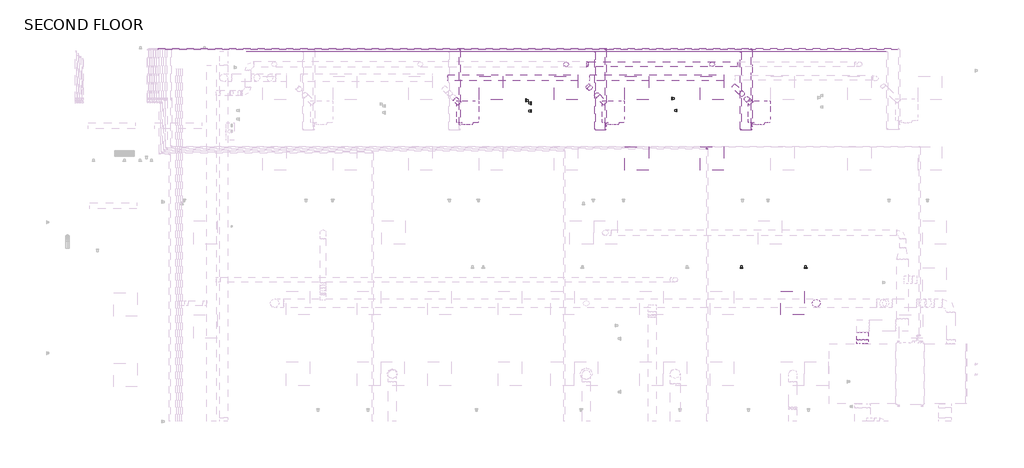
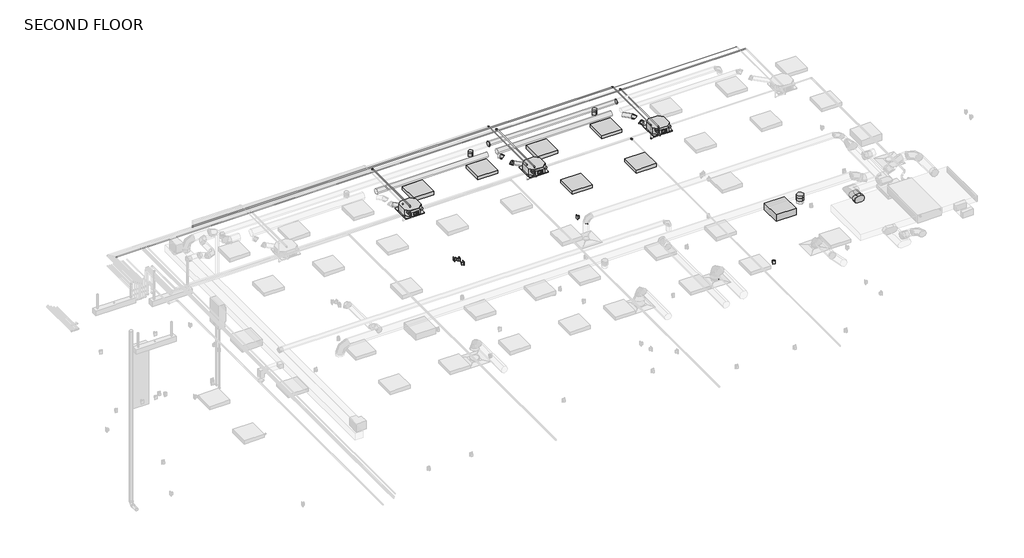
# One storey, part 11 of 12: 15 pipe segments, 13 pipe fittings, 12 duct segments, 10 duct fittings, 8 proxies, 7 light fixtures, 2 electric appliances.
"""IFC4 building model written with IfcOpenShell, lengths in millimetres."""

from ifc_helpers import new_model, si_unit, point, frame, frame_2d, origin, place, context, project, spatial, polyline, circle_curve, trimmed, segment, composite_curve, outline, extrude, transform, mapped, element, save
from components import mechanical_equipment_2d84379e, duplex_receptacle_countertop_10251bba, oval_tap_straight_standard_1d19fd39, round_elbow_1_d_b2a2d1fc, round_elbow_1_d_50e30291, round_elbow_1_d_d5890114, round_takeoff_standard_17dc06e3, round_takeoff_standard_a3e273fa, round_takeoff_standard_d07f2805, round_transition_angle_45_degree_f2e0231c, round_union_standard_bde99334, telephone_outlet_data_plain_18c24199, troffer_corner_insert_2x2_3_lamp_emergency_29e3a813, troffer_corner_insert_2x2_3lamp_e67c7f8f, elbow_generic_standard_c06ac706, elbow_generic_standard_a088f956

model = new_model("IFC4")

# Units and contexts
model_context = context("Model", 3, world=origin())
ifc_project = project(units=[si_unit("LENGTHUNIT", "METRE", prefix="MILLI")], contexts=[model_context])

# Site, building, storey
site = spatial("IfcSite", under=ifc_project)
building = spatial("IfcBuilding", under=site)
storey = spatial("IfcBuildingStorey", under=building, Name="SECOND FLOOR", Elevation=34544.0)

# Proxies
placement = place(None, origin())
mechanical_equipment_shape = mechanical_equipment_2d84379e(model_context)
element("IfcBuildingElementProxy", 1, Name="PLFY-P-NCMU-E_4-way_24x24 : PLFY-P12NCMU-E", ObjectType="PLFY-P-NCMU-E_4-way_24x24 : PLFY-P12NCMU-E", at=placement, inside=storey, context=model_context, shape_type="MappedRepresentation", body=[
    mapped(mechanical_equipment_shape, transform((289.0857893, 6112.4342918, 37287.2), x_axis=(-1.0, 0.0, 0.0), y_axis=(0.0, 1.0, 0.0), z_axis=(0.0, 0.0, -1.0))),
])
element("IfcBuildingElementProxy", 2, Name="PLFY-P-NCMU-E_4-way_24x24 : PLFY-P12NCMU-E", ObjectType="PLFY-P-NCMU-E_4-way_24x24 : PLFY-P12NCMU-E", at=placement, inside=storey, context=model_context, shape_type="MappedRepresentation", body=[
    mapped(mechanical_equipment_shape, transform((4070.5107893, 6112.4342918, 37287.2), x_axis=(-1.0, 0.0, 0.0), y_axis=(0.0, 1.0, 0.0), z_axis=(0.0, 0.0, -1.0))),
])
element("IfcBuildingElementProxy", 3, Name="PLFY-P-NCMU-E_4-way_24x24 : PLFY-P12NCMU-E", ObjectType="PLFY-P-NCMU-E_4-way_24x24 : PLFY-P12NCMU-E", at=placement, inside=storey, context=model_context, shape_type="MappedRepresentation", body=[
    mapped(mechanical_equipment_shape, transform((7851.9357893, 6112.4342918, 37287.2), x_axis=(-1.0, 0.0, 0.0), y_axis=(0.0, 1.0, 0.0), z_axis=(0.0, 0.0, -1.0))),
])
duplex_receptacle_countertop_shape = duplex_receptacle_countertop_10251bba(model_context)
element("IfcBuildingElementProxy", 4, Name="Duplex Receptacle : Standard", ObjectType="Duplex Receptacle : Standard", at=placement, inside=storey, context=model_context, shape_type="MappedRepresentation", body=[
    mapped(duplex_receptacle_countertop_shape, transform((1807.5295393, 6334.6426986, 35001.2), x_axis=(0.0, -1.0, 0.0), y_axis=(0.0, 0.0, 1.0), z_axis=(-1.0, 0.0, 0.0))),
])
element("IfcBuildingElementProxy", 5, Name="Duplex Receptacle : Standard", ObjectType="Duplex Receptacle : Standard", at=placement, inside=storey, context=model_context, shape_type="MappedRepresentation", body=[
    mapped(duplex_receptacle_countertop_shape, transform((1931.3545393, 6062.1200365, 35001.2), x_axis=(0.0, 1.0, 0.0), y_axis=(0.0, 0.0, 1.0), z_axis=(1.0, 0.0, 0.0))),
])
element("IfcBuildingElementProxy", 6, Name="Duplex Receptacle : Standard", ObjectType="Duplex Receptacle : Standard", at=placement, inside=storey, context=model_context, shape_type="MappedRepresentation", body=[
    mapped(duplex_receptacle_countertop_shape, transform((5588.9545393, 6381.6293645, 35001.2), x_axis=(0.0, -1.0, 0.0), y_axis=(0.0, 0.0, 1.0), z_axis=(-1.0, 0.0, 0.0))),
])
element("IfcBuildingElementProxy", 7, Name="Duplex Receptacle : Standard", ObjectType="Duplex Receptacle : Standard", at=placement, inside=storey, context=model_context, shape_type="MappedRepresentation", body=[
    mapped(duplex_receptacle_countertop_shape, transform((5712.7795393, 6074.7500523, 35001.2), x_axis=(0.0, 1.0, 0.0), y_axis=(0.0, 0.0, 1.0), z_axis=(1.0, 0.0, 0.0))),
])
element("IfcBuildingElementProxy", 8, Name="Duplex Receptacle : Standard", ObjectType="Duplex Receptacle : Standard", at=placement, inside=storey, context=model_context, shape_type="MappedRepresentation", body=[
    mapped(duplex_receptacle_countertop_shape, transform((9052.3402445, 1991.7195005, 35001.2), x_axis=(1.0, 0.0, 0.0), y_axis=(0.0, 0.0, 1.0), z_axis=(0.0, -1.0, 0.0))),
])

# Duct fittings
oval_tap_straight_standard_shape = oval_tap_straight_standard_1d19fd39(model_context)
element("IfcDuctFitting", 9, ObjectType="Oval Tap - Straight : Standard", at=placement, inside=storey, context=model_context, shape_type="MappedRepresentation", body=[
    mapped(oval_tap_straight_standard_shape, transform((10522.5076643, 26.3945005, 37712.65), x_axis=(0.0, 1.0, 0.0), y_axis=(1.0, 0.0, 0.0), z_axis=(0.0, 0.0, -1.0))),
])
round_elbow_1_d_shape = round_elbow_1_d_b2a2d1fc(model_context)
element("IfcDuctFitting", 10, ObjectType="Round Elbow : 1 D", at=placement, inside=storey, context=model_context, shape_type="MappedRepresentation", body=[
    mapped(round_elbow_1_d_shape, transform((3454.0374117, 6660.2866281, 37541.2), x_axis=(0.7071067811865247, -0.7071067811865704, 0.0), y_axis=(0.0, 0.0, -1.0000000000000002), z_axis=(0.7071067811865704, 0.7071067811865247, 0.0))),
])
element("IfcDuctFitting", 11, ObjectType="Round Elbow : 1 D", at=placement, inside=storey, context=model_context, shape_type="MappedRepresentation", body=[
    mapped(round_elbow_1_d_shape, transform((3648.0880488, 6466.235991, 37381.2593852), x_axis=(0.6109224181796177, -0.610922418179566, -0.5035351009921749), y_axis=(0.3560530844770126, -0.3560530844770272, 0.8639747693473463), z_axis=(-0.7071067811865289, -0.7071067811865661, 0.0))),
])
round_elbow_1_d_2_shape = round_elbow_1_d_50e30291(model_context)
element("IfcDuctFitting", 12, ObjectType="Round Elbow : 1 D", at=placement, inside=storey, context=model_context, shape_type="MappedRepresentation", body=[
    mapped(round_elbow_1_d_2_shape, transform((7536.6080109, 6359.1410289, 37381.2593742), x_axis=(-0.7071067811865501, 0.7071067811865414, -7.194429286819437e-08), y_axis=(-5.087228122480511e-08, 5.087231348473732e-08, 0.9999999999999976), z_axis=(0.7071067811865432, 0.707106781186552, 0.0))),
])
round_elbow_1_d_3_shape = round_elbow_1_d_d5890114(model_context)
element("IfcDuctFitting", 13, ObjectType="Round Elbow : 1 D", at=placement, inside=storey, context=model_context, shape_type="MappedRepresentation", body=[
    mapped(round_elbow_1_d_3_shape, transform((7390.9344617, 6504.8145781, 37541.2), x_axis=(-0.5585398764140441, 0.5585398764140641, 0.6132425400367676), y_axis=(-0.43362795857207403, 0.43362795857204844, -0.7898946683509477), z_axis=(-0.7071067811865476, -0.7071067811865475, 0.0))),
])
round_takeoff_standard_shape = round_takeoff_standard_17dc06e3(model_context)
element("IfcDuctFitting", 14, ObjectType="Round Takeoff : Standard", at=placement, inside=storey, context=model_context, shape_type="MappedRepresentation", body=[
    mapped(round_takeoff_standard_shape, transform((6627.1795393, 7268.5695005, 37528.5), x_axis=(0.0, 0.0, -1.0), y_axis=(-1.0, 0.0, 0.0), z_axis=(0.0, 1.0, 0.0))),
])
round_takeoff_standard_2_shape = round_takeoff_standard_a3e273fa(model_context)
element("IfcDuctFitting", 15, ObjectType="Round Takeoff : Standard", at=placement, inside=storey, context=model_context, shape_type="MappedRepresentation", body=[
    mapped(round_takeoff_standard_2_shape, transform((2845.7545393, 7268.5695005, 37515.8), x_axis=(0.0, 0.0, -1.0), y_axis=(1.0, 0.0, 0.0), z_axis=(0.0, -1.0, 0.0))),
])
round_takeoff_standard_3_shape = round_takeoff_standard_d07f2805(model_context)
element("IfcDuctFitting", 16, ObjectType="Round Takeoff : Standard", at=placement, inside=storey, context=model_context, shape_type="MappedRepresentation", body=[
    mapped(round_takeoff_standard_3_shape, transform((9326.7232893, 1077.3195005, 37579.3), x_axis=(0.0, 0.0, -1.0), y_axis=(-1.0, 0.0, 0.0), z_axis=(0.0, 1.0, 0.0))),
])
round_transition_angle_45_degree_shape = round_transition_angle_45_degree_f2e0231c(model_context)
element("IfcDuctFitting", 17, ObjectType="Round Transition - Angle : 45 Degree", at=placement, inside=storey, context=model_context, shape_type="MappedRepresentation", body=[
    mapped(round_transition_angle_45_degree_shape, transform((3412.4920393, 7268.5695005, 37592.0), x_axis=(-1.0, 0.0, 0.0), y_axis=(0.0, -1.0, 0.0), z_axis=(0.0, 0.0, 1.0))),
])
round_union_standard_shape = round_union_standard_bde99334(model_context)
element("IfcDuctFitting", 18, ObjectType="Round Union : Standard", at=placement, inside=storey, context=model_context, shape_type="MappedRepresentation", body=[
    mapped(round_union_standard_shape, transform((7298.6920393, 7268.5695005, 37592.0), x_axis=(-1.0, 0.0, 0.0), y_axis=(0.0, -1.0, 0.0), z_axis=(0.0, 0.0, 1.0))),
])

# Duct segments
element("IfcDuctSegment", 19, ObjectType="Mitered Elbows / Taps", at=placement, inside=storey, context=model_context, shape_type="SweptSolid", body=[
    extrude(outline(composite_curve([segment(polyline([(37814.25, 10573.3076643), (37814.25, 10471.7076643)]), True, "CONTINUOUS"), segment(trimmed(circle_curve(frame_2d((37712.65, 10471.7076643)), 101.6), [point((37814.25, 10471.7076643))], [point((37712.65, 10370.1076643))], False, "CARTESIAN"), True, "CONTINUOUS"), segment(trimmed(circle_curve(frame_2d((37712.65, 10471.7076643)), 101.6), [point((37712.65, 10370.1076643))], [point((37611.05, 10471.7076643))], False, "CARTESIAN"), True, "CONTINUOUS"), segment(polyline([(37611.05, 10471.7076643), (37611.05, 10573.3076643)]), True, "CONTINUOUS"), segment(trimmed(circle_curve(frame_2d((37712.65, 10573.3076643)), 101.6), [point((37611.05, 10573.3076643))], [point((37712.65, 10674.9076643))], False, "CARTESIAN"), True, "CONTINUOUS"), segment(trimmed(circle_curve(frame_2d((37712.65, 10573.3076643)), 101.6), [point((37712.65, 10674.9076643))], [point((37814.25, 10573.3076643))], False, "CARTESIAN"), True, "CONTINUOUS")], self_intersect=False)), frame((0.0, 127.9945005, 0.0), z_axis=(0.0, 1.0, 0.0), x_axis=(0.0, 0.0, 1.0)), (0.0, 0.0, 1.0), 190.7662036),
])
element("IfcDuctSegment", 20, ObjectType="Taps / Short Radius", at=placement, inside=storey, context=model_context, shape_type="SweptSolid", body=[
    extrude(outline(composite_curve([segment(trimmed(circle_curve(frame_2d((0.0, 63.5)), 63.5), [point((-63.5, 63.5))], [point((0.0, 127.0))], False, "CARTESIAN"), True, "CONTINUOUS"), segment(trimmed(circle_curve(frame_2d((0.0, 63.5)), 63.5), [point((0.0, 127.0))], [point((63.5, 63.5))], False, "CARTESIAN"), True, "CONTINUOUS"), segment(trimmed(circle_curve(frame_2d((0.0, 63.5)), 63.5), [point((63.5, 63.5))], [point((0.0, 0.0))], False, "CARTESIAN"), True, "CONTINUOUS"), segment(trimmed(circle_curve(frame_2d((0.0, 63.5)), 63.5), [point((0.0, 0.0))], [point((-63.5, 63.5))], False, "CARTESIAN"), True, "CONTINUOUS")], self_intersect=False)), frame((6627.1795393, 7205.0695005, 37388.8), z_axis=(0.0, -1.1937117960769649e-12, 1.0), x_axis=(1.0, 0.0, 0.0)), (0.0, 0.0, 1.0), 38.1),
])
element("IfcDuctSegment", 21, ObjectType="Taps / Short Radius", at=placement, inside=storey, context=model_context, shape_type="SweptSolid", body=[
    extrude(outline(composite_curve([segment(trimmed(circle_curve(frame_2d((0.0, 63.5)), 63.5), [point((-63.5, 63.5))], [point((0.0, 127.0))], False, "CARTESIAN"), True, "CONTINUOUS"), segment(trimmed(circle_curve(frame_2d((0.0, 63.5)), 63.5), [point((0.0, 127.0))], [point((63.5, 63.5))], False, "CARTESIAN"), True, "CONTINUOUS"), segment(trimmed(circle_curve(frame_2d((0.0, 63.5)), 63.5), [point((63.5, 63.5))], [point((0.0, 0.0))], False, "CARTESIAN"), True, "CONTINUOUS"), segment(trimmed(circle_curve(frame_2d((0.0, 63.5)), 63.5), [point((0.0, 0.0))], [point((-63.5, 63.5))], False, "CARTESIAN"), True, "CONTINUOUS")], self_intersect=False)), frame((2845.7545393, 7205.0695005, 37388.8), z_axis=(0.0, -5.900346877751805e-12, 1.0), x_axis=(1.0, 0.0, 0.0)), (0.0, 0.0, 1.0), 25.4),
])
element("IfcDuctSegment", 22, ObjectType="Taps / Short Radius", at=placement, inside=storey, context=model_context, shape_type="SweptSolid", body=[
    extrude(outline(composite_curve([segment(trimmed(circle_curve(frame_2d((7268.5695005, 37592.0)), 63.5), [point((7332.0695005, 37592.0))], [point((7268.5695005, 37528.5))], False, "CARTESIAN"), True, "CONTINUOUS"), segment(trimmed(circle_curve(frame_2d((7268.5695005, 37592.0)), 63.5), [point((7268.5695005, 37528.5))], [point((7205.0695005, 37592.0))], False, "CARTESIAN"), True, "CONTINUOUS"), segment(trimmed(circle_curve(frame_2d((7268.5695005, 37592.0)), 63.5), [point((7205.0695005, 37592.0))], [point((7268.5695005, 37655.5))], False, "CARTESIAN"), True, "CONTINUOUS"), segment(trimmed(circle_curve(frame_2d((7268.5695005, 37592.0)), 63.5), [point((7268.5695005, 37655.5))], [point((7332.0695005, 37592.0))], False, "CARTESIAN"), True, "CONTINUOUS")], self_intersect=False)), frame((3412.4920393, 0.0, 0.0), z_axis=(1.0, 0.0, 0.0), x_axis=(0.0, 1.0, 0.0)), (0.0, 0.0, 1.0), 3879.85),
])
element("IfcDuctSegment", 23, ObjectType="Taps / Short Radius", at=placement, inside=storey, context=model_context, shape_type="SweptSolid", body=[
    extrude(outline(composite_curve([segment(trimmed(circle_curve(frame_2d((9326.7232893, 1077.3195005)), 101.6), [point((9225.1232893, 1077.3195005))], [point((9326.7232893, 1178.9195005))], False, "CARTESIAN"), True, "CONTINUOUS"), segment(trimmed(circle_curve(frame_2d((9326.7232893, 1077.3195005)), 101.6), [point((9326.7232893, 1178.9195005))], [point((9428.3232893, 1077.3195005))], False, "CARTESIAN"), True, "CONTINUOUS"), segment(trimmed(circle_curve(frame_2d((9326.7232893, 1077.3195005)), 101.6), [point((9428.3232893, 1077.3195005))], [point((9326.7232893, 975.7195005))], False, "CARTESIAN"), True, "CONTINUOUS"), segment(trimmed(circle_curve(frame_2d((9326.7232893, 1077.3195005)), 101.6), [point((9326.7232893, 975.7195005))], [point((9225.1232893, 1077.3195005))], False, "CARTESIAN"), True, "CONTINUOUS")], self_intersect=False)), frame((0.0, 0.0, 37388.8), z_axis=(0.0, 0.0, 1.0), x_axis=(1.0, 0.0, 0.0)), (0.0, 0.0, 1.0), 88.9),
])
element("IfcDuctSegment", 24, ObjectType="Taps / Short Radius", at=placement, inside=storey, context=model_context, shape_type="SweptSolid", body=[
    extrude(outline(composite_curve([segment(trimmed(circle_curve(frame_2d((6917.6422212, 37541.2)), 76.2), [point((6993.8422212, 37541.2))], [point((6917.6422212, 37465.0))], False, "CARTESIAN"), True, "CONTINUOUS"), segment(trimmed(circle_curve(frame_2d((6917.6422212, 37541.2)), 76.2), [point((6917.6422212, 37465.0))], [point((6841.4422212, 37541.2))], False, "CARTESIAN"), True, "CONTINUOUS"), segment(trimmed(circle_curve(frame_2d((6917.6422212, 37541.2)), 76.2), [point((6841.4422212, 37541.2))], [point((6917.6422212, 37617.4))], False, "CARTESIAN"), True, "CONTINUOUS"), segment(trimmed(circle_curve(frame_2d((6917.6422212, 37541.2)), 76.2), [point((6917.6422212, 37617.4))], [point((6993.8422212, 37541.2))], False, "CARTESIAN"), True, "CONTINUOUS")], self_intersect=False)), frame((-229.1431814, 0.0, 0.0), z_axis=(1.0, 0.0, 0.0), x_axis=(0.0, 1.0, 0.0)), (0.0, 0.0, 1.0), 3380.9237194),
])
element("IfcDuctSegment", 25, ObjectType="Taps / Short Radius", at=placement, inside=storey, context=model_context, shape_type="SweptSolid", body=[
    extrude(outline(composite_curve([segment(trimmed(circle_curve(frame_2d((6917.6422212, 37541.2)), 76.2), [point((6841.4422212, 37541.2))], [point((6917.6422212, 37617.4))], False, "CARTESIAN"), True, "CONTINUOUS"), segment(trimmed(circle_curve(frame_2d((6917.6422212, 37541.2)), 76.2), [point((6917.6422212, 37617.4))], [point((6993.8422212, 37541.2))], False, "CARTESIAN"), True, "CONTINUOUS"), segment(trimmed(circle_curve(frame_2d((6917.6422212, 37541.2)), 76.2), [point((6993.8422212, 37541.2))], [point((6917.6422212, 37465.0))], False, "CARTESIAN"), True, "CONTINUOUS"), segment(trimmed(circle_curve(frame_2d((6917.6422212, 37541.2)), 76.2), [point((6917.6422212, 37465.0))], [point((6841.4422212, 37541.2))], False, "CARTESIAN"), True, "CONTINUOUS")], self_intersect=False)), frame((3450.6818186, 0.0, 0.0), z_axis=(1.0, 0.0, 0.0), x_axis=(0.0, 1.0, 0.0)), (0.0, 0.0, 1.0), 3482.5237194),
])
element("IfcDuctSegment", 26, ObjectType="Taps / Short Radius", at=placement, inside=storey, context=model_context, shape_type="SweptSolid", body=[
    extrude(outline(composite_curve([segment(trimmed(circle_curve(frame_2d((0.0, 63.5)), 63.5), [point((63.5, 63.5))], [point((0.0, 0.0))], False, "CARTESIAN"), True, "CONTINUOUS"), segment(trimmed(circle_curve(frame_2d((0.0, 63.5)), 63.5), [point((0.0, 0.0))], [point((-63.5, 63.5))], False, "CARTESIAN"), True, "CONTINUOUS"), segment(trimmed(circle_curve(frame_2d((0.0, 63.5)), 63.5), [point((-63.5, 63.5))], [point((0.0, 127.0))], False, "CARTESIAN"), True, "CONTINUOUS"), segment(trimmed(circle_curve(frame_2d((0.0, 63.5)), 63.5), [point((0.0, 127.0))], [point((63.5, 63.5))], False, "CARTESIAN"), True, "CONTINUOUS")], self_intersect=False)), frame((82.1894112, 6250.7096286, 37444.7593852), z_axis=(-0.7071067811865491, 0.707106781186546, 0.0), x_axis=(0.707106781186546, 0.7071067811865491, 0.0)), (0.0, 0.0, 1.0), 172.72),
])
element("IfcDuctSegment", 27, ObjectType="Taps / Short Radius", at=placement, inside=storey, context=model_context, shape_type="SweptSolid", body=[
    extrude(outline(composite_curve([segment(trimmed(circle_curve(frame_2d((0.0, -63.5)), 63.5), [point((-63.5000001, -63.5))], [point((0.0, 0.0))], False, "CARTESIAN"), True, "CONTINUOUS"), segment(trimmed(circle_curve(frame_2d((0.0, -63.5)), 63.5), [point((0.0, 0.0))], [point((63.5, -63.5))], False, "CARTESIAN"), True, "CONTINUOUS"), segment(trimmed(circle_curve(frame_2d((0.0, -63.5)), 63.5), [point((63.5, -63.5))], [point((0.0, -127.0))], False, "CARTESIAN"), True, "CONTINUOUS"), segment(trimmed(circle_curve(frame_2d((0.0, -63.5)), 63.5), [point((0.0, -127.0))], [point((-63.5000001, -63.5))], False, "CARTESIAN"), True, "CONTINUOUS")], self_intersect=False)), frame((3429.7781018, 6684.5459381, 37477.7), z_axis=(-0.7071067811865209, 0.7071067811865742, 0.0), x_axis=(0.7071067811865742, 0.7071067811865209, 0.0)), (0.0, 0.0, 1.0), 50.621778),
])
element("IfcDuctSegment", 28, ObjectType="Taps / Short Radius", at=placement, inside=storey, context=model_context, shape_type="SweptSolid", body=[
    extrude(outline(composite_curve([segment(trimmed(circle_curve(frame_2d((0.0, -63.5)), 63.5), [point((-63.5, -63.5))], [point((0.0, 0.0))], False, "CARTESIAN"), True, "CONTINUOUS"), segment(trimmed(circle_curve(frame_2d((0.0, -63.5)), 63.5), [point((0.0, 0.0))], [point((63.5, -63.5))], False, "CARTESIAN"), True, "CONTINUOUS"), segment(trimmed(circle_curve(frame_2d((0.0, -63.5)), 63.5), [point((63.5, -63.5))], [point((0.0, -127.0))], False, "CARTESIAN"), True, "CONTINUOUS"), segment(trimmed(circle_curve(frame_2d((0.0, -63.5)), 63.5), [point((0.0, -127.0))], [point((-63.5, -63.5))], False, "CARTESIAN"), True, "CONTINUOUS")], self_intersect=False)), frame((3863.6144112, 6250.7096286, 37317.7593852), z_axis=(-0.707106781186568, 0.7071067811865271, 0.0), x_axis=(0.7071067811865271, 0.707106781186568, 0.0)), (0.0, 0.0, 1.0), 270.4924596),
])
element("IfcDuctSegment", 29, ObjectType="Taps / Short Radius", at=placement, inside=storey, context=model_context, shape_type="SweptSolid", body=[
    extrude(outline(composite_curve([segment(trimmed(circle_curve(frame_2d((0.0, 63.5)), 63.5), [point((63.5, 63.5))], [point((0.0, 0.0))], False, "CARTESIAN"), True, "CONTINUOUS"), segment(trimmed(circle_curve(frame_2d((0.0, 63.5)), 63.5), [point((0.0, 0.0))], [point((-63.5, 63.5))], False, "CARTESIAN"), True, "CONTINUOUS"), segment(trimmed(circle_curve(frame_2d((0.0, 63.5)), 63.5), [point((-63.5, 63.5))], [point((0.0, 127.0))], False, "CARTESIAN"), True, "CONTINUOUS"), segment(trimmed(circle_curve(frame_2d((0.0, 63.5)), 63.5), [point((0.0, 127.0))], [point((63.5, 63.5))], False, "CARTESIAN"), True, "CONTINUOUS")], self_intersect=False)), frame((7645.0394112, 6250.7096286, 37444.7593852), z_axis=(-0.7071067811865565, 0.7071067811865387, 0.0), x_axis=(0.7071067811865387, 0.7071067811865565, 0.0)), (0.0, 0.0, 1.0), 109.8332044),
])
element("IfcDuctSegment", 30, ObjectType="Taps / Short Radius", at=placement, inside=storey, context=model_context, shape_type="SweptSolid", body=[
    extrude(outline(composite_curve([segment(trimmed(circle_curve(frame_2d((0.0, 63.5)), 63.5), [point((63.5, 63.5))], [point((0.0, 0.0))], False, "CARTESIAN"), True, "CONTINUOUS"), segment(trimmed(circle_curve(frame_2d((0.0, 63.5)), 63.5), [point((0.0, 0.0))], [point((-63.5, 63.5))], False, "CARTESIAN"), True, "CONTINUOUS"), segment(trimmed(circle_curve(frame_2d((0.0, 63.5)), 63.5), [point((-63.5, 63.5))], [point((0.0, 127.0))], False, "CARTESIAN"), True, "CONTINUOUS"), segment(trimmed(circle_curve(frame_2d((0.0, 63.5)), 63.5), [point((0.0, 127.0))], [point((63.5, 63.5))], False, "CARTESIAN"), True, "CONTINUOUS")], self_intersect=False)), frame((7360.1668686, 6535.5821712, 37604.7), z_axis=(-0.7071067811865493, 0.7071067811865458, 0.0), x_axis=(0.7071067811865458, 0.7071067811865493, 0.0)), (0.0, 0.0, 1.0), 261.2883574),
])

# Electric appliances
telephone_outlet_data_plain_shape = telephone_outlet_data_plain_18c24199(model_context)
element("IfcElectricAppliance", 31, ObjectType="Telephone Outlet - Data : Plain", at=placement, inside=storey, context=model_context, shape_type="MappedRepresentation", body=[
    mapped(telephone_outlet_data_plain_shape, transform((1931.3545393, 7140.4549932, 34143.95), x_axis=(0.0, 1.0, 0.0), y_axis=(0.0, 0.0, 1.0), z_axis=(1.0, 0.0, 0.0))),
])
element("IfcElectricAppliance", 32, ObjectType="Telephone Outlet - Data : Plain", at=placement, inside=storey, context=model_context, shape_type="MappedRepresentation", body=[
    mapped(telephone_outlet_data_plain_shape, transform((8272.2966001, 1991.7195005, 34143.95), x_axis=(1.0, 0.0, 0.0), y_axis=(0.0, 0.0, 1.0), z_axis=(0.0, -1.0, 0.0))),
])

# Light fixtures
troffer_corner_insert_2x2_3_lamp_emergency_shape = troffer_corner_insert_2x2_3_lamp_emergency_29e3a813(model_context)
element("IfcLightFixture", 33, ObjectType="Troffer Corner Insert : 2x2 3 Lamp Emergency", at=placement, inside=storey, context=model_context, shape_type="MappedRepresentation", body=[
    mapped(troffer_corner_insert_2x2_3_lamp_emergency_shape, transform((8717.1232893, 1077.3195005, 34848.8), x_axis=(1.0, 0.0, 0.0), y_axis=(0.0, 1.0, 0.0), z_axis=(0.0, 0.0, 1.0))),
])
troffer_corner_insert_2x2_3lamp_shape = troffer_corner_insert_2x2_3lamp_e67c7f8f(model_context)
element("IfcLightFixture", 34, ObjectType="Troffer Corner Insert : 2x2 3Lamp", at=placement, inside=storey, context=model_context, shape_type="MappedRepresentation", body=[
    mapped(troffer_corner_insert_2x2_3lamp_shape, transform((2845.7545393, 6658.9695005, 34848.8), x_axis=(1.0, 0.0, 0.0), y_axis=(0.0, 1.0, 0.0), z_axis=(0.0, 0.0, 1.0))),
])
element("IfcLightFixture", 35, ObjectType="Troffer Corner Insert : 2x2 3Lamp", at=placement, inside=storey, context=model_context, shape_type="MappedRepresentation", body=[
    mapped(troffer_corner_insert_2x2_3lamp_shape, transform((4674.5545393, 4830.1695005, 34848.8), x_axis=(1.0, 0.0, 0.0), y_axis=(0.0, 1.0, 0.0), z_axis=(0.0, 0.0, 1.0))),
])
element("IfcLightFixture", 36, ObjectType="Troffer Corner Insert : 2x2 3Lamp", at=placement, inside=storey, context=model_context, shape_type="MappedRepresentation", body=[
    mapped(troffer_corner_insert_2x2_3lamp_shape, transform((6627.1795393, 6658.9695005, 34848.8), x_axis=(1.0, 0.0, 0.0), y_axis=(0.0, 1.0, 0.0), z_axis=(0.0, 0.0, 1.0))),
])
element("IfcLightFixture", 37, ObjectType="Troffer Corner Insert : 2x2 3Lamp", at=placement, inside=storey, context=model_context, shape_type="MappedRepresentation", body=[
    mapped(troffer_corner_insert_2x2_3lamp_shape, transform((6627.1795393, 4830.1695005, 34848.8), x_axis=(1.0, 0.0, 0.0), y_axis=(0.0, 1.0, 0.0), z_axis=(0.0, 0.0, 1.0))),
])
element("IfcLightFixture", 38, ObjectType="Troffer Corner Insert : 2x2 3Lamp", at=placement, inside=storey, context=model_context, shape_type="MappedRepresentation", body=[
    mapped(troffer_corner_insert_2x2_3lamp_shape, transform((893.1295393, 6658.9695005, 34848.8), x_axis=(1.0, 0.0, 0.0), y_axis=(0.0, 1.0, 0.0), z_axis=(0.0, 0.0, 1.0))),
])
element("IfcLightFixture", 39, ObjectType="Troffer Corner Insert : 2x2 3Lamp", at=placement, inside=storey, context=model_context, shape_type="MappedRepresentation", body=[
    mapped(troffer_corner_insert_2x2_3lamp_shape, transform((4674.5545393, 6658.9695005, 34848.8), x_axis=(1.0, 0.0, 0.0), y_axis=(0.0, 1.0, 0.0), z_axis=(0.0, 0.0, 1.0))),
])

# Pipe fittings
elbow_generic_standard_shape = elbow_generic_standard_c06ac706(model_context)
element("IfcPipeFitting", 40, ObjectType="Elbow - Generic : Standard", at=placement, inside=storey, context=model_context, shape_type="MappedRepresentation", body=[
    mapped(elbow_generic_standard_shape, transform((90.6482893, 7663.8570005, 37706.3), x_axis=(0.0, 1.0, 0.0), y_axis=(-1.0, 0.0, 0.0), z_axis=(0.0, 0.0, 1.0))),
])
element("IfcPipeFitting", 41, ObjectType="Elbow - Generic : Standard", at=placement, inside=storey, context=model_context, shape_type="MappedRepresentation", body=[
    mapped(elbow_generic_standard_shape, transform((3872.0732893, 7663.8570005, 37668.2), x_axis=(0.0, 1.0, 0.0), y_axis=(-1.0, 0.0, 0.0), z_axis=(0.0, 0.0, 1.0))),
])
element("IfcPipeFitting", 42, ObjectType="Elbow - Generic : Standard", at=placement, inside=storey, context=model_context, shape_type="MappedRepresentation", body=[
    mapped(elbow_generic_standard_shape, transform((7653.4982893, 7663.8570005, 37630.1), x_axis=(0.0, 1.0, 0.0), y_axis=(-1.0, 0.0, 0.0), z_axis=(0.0, 0.0, 1.0))),
])
element("IfcPipeFitting", 43, ObjectType="Elbow - Generic : Standard", at=placement, inside=storey, context=model_context, shape_type="MappedRepresentation", body=[
    mapped(elbow_generic_standard_shape, transform((7653.4982893, 5659.1525126, 37630.1), x_axis=(0.0, 0.0, 1.0), y_axis=(0.0, 1.0, 0.0), z_axis=(-1.0, 0.0, 0.0))),
])
element("IfcPipeFitting", 44, ObjectType="Elbow - Generic : Standard", at=placement, inside=storey, context=model_context, shape_type="MappedRepresentation", body=[
    mapped(elbow_generic_standard_shape, transform((6500.4970393, 5084.8701311, 37998.4), x_axis=(0.0, 1.0, 0.0), y_axis=(-1.0, 0.0, 0.0), z_axis=(0.0, 0.0, 1.0))),
])
element("IfcPipeFitting", 45, ObjectType="Elbow - Generic : Standard", at=placement, inside=storey, context=model_context, shape_type="MappedRepresentation", body=[
    mapped(elbow_generic_standard_shape, transform((3872.0732893, 5665.0498496, 37437.2187602), x_axis=(0.0, 0.0, -1.0), y_axis=(0.0, 1.0, 0.0), z_axis=(1.0, 0.0, 0.0))),
])
element("IfcPipeFitting", 46, ObjectType="Elbow - Generic : Standard", at=placement, inside=storey, context=model_context, shape_type="MappedRepresentation", body=[
    mapped(elbow_generic_standard_shape, transform((7653.4982893, 5659.1525126, 37437.2187602), x_axis=(0.0, 0.0, -1.0), y_axis=(0.0, 1.0, 0.0), z_axis=(1.0, 0.0, 0.0))),
])
elbow_generic_standard_2_shape = elbow_generic_standard_a088f956(model_context)
element("IfcPipeFitting", 47, ObjectType="Elbow - Generic : Standard", at=placement, inside=storey, context=model_context, shape_type="MappedRepresentation", body=[
    mapped(elbow_generic_standard_2_shape, transform((3588.7045393, 7600.3570005, 37896.8), x_axis=(0.0, 1.0, 0.0), y_axis=(-1.0, 0.0, 0.0), z_axis=(0.0, 0.0, 1.0))),
])
element("IfcPipeFitting", 48, ObjectType="Elbow - Generic : Standard", at=placement, inside=storey, context=model_context, shape_type="MappedRepresentation", body=[
    mapped(elbow_generic_standard_2_shape, transform((7370.1295393, 5568.3570005, 37407.85), x_axis=(-1.0, 0.0, 0.0), y_axis=(0.0, 0.0, 1.0), z_axis=(0.0, 1.0, 0.0))),
])
element("IfcPipeFitting", 49, ObjectType="Elbow - Generic : Standard", at=placement, inside=storey, context=model_context, shape_type="MappedRepresentation", body=[
    mapped(elbow_generic_standard_2_shape, transform((7370.1295393, 5568.3570005, 37846.0), x_axis=(0.0, 0.0, 1.0), y_axis=(0.0, 1.0, 0.0), z_axis=(-1.0, 0.0, 0.0))),
])
element("IfcPipeFitting", 50, ObjectType="Elbow - Generic : Standard", at=placement, inside=storey, context=model_context, shape_type="MappedRepresentation", body=[
    mapped(elbow_generic_standard_2_shape, transform((7370.1295393, 7600.3570005, 37846.0), x_axis=(0.0, 1.0, 0.0), y_axis=(-1.0, 0.0, 0.0), z_axis=(0.0, 0.0, 1.0))),
])
element("IfcPipeFitting", 51, ObjectType="Elbow - Generic : Standard", at=placement, inside=storey, context=model_context, shape_type="MappedRepresentation", body=[
    mapped(elbow_generic_standard_2_shape, transform((3868.8982893, 5568.3570005, 37407.8499993), x_axis=(1.0, 0.0, 0.0), y_axis=(0.0, 0.9999999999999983, 5.7594219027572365e-08), z_axis=(0.0, -5.7594219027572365e-08, 0.9999999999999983))),
])
element("IfcPipeFitting", 52, ObjectType="Elbow - Generic : Standard", at=placement, inside=storey, context=model_context, shape_type="MappedRepresentation", body=[
    mapped(elbow_generic_standard_2_shape, transform((7650.3232893, 5568.3570005, 37407.85), x_axis=(1.0, 0.0, 0.0), y_axis=(0.0, 0.9999999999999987, 5.3754602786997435e-08), z_axis=(0.0, -5.3754602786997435e-08, 0.9999999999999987))),
])

# Pipe segments
element("IfcPipeSegment", 53, ObjectType="Copper Tubing", at=placement, inside=storey, context=model_context, shape_type="SweptSolid", body=[
    extrude(outline(composite_curve([segment(trimmed(circle_curve(frame_2d((37706.3, 90.6482893)), 14.2875), [point((37706.3, 104.9357893))], [point((37720.5875, 90.6482893))], False, "CARTESIAN"), True, "CONTINUOUS"), segment(trimmed(circle_curve(frame_2d((37706.3, 90.6482893)), 14.2875), [point((37720.5875, 90.6482893))], [point((37706.3, 76.3607893))], False, "CARTESIAN"), True, "CONTINUOUS"), segment(trimmed(circle_curve(frame_2d((37706.3, 90.6482893)), 14.2875), [point((37706.3, 76.3607893))], [point((37692.0125, 90.6482893))], False, "CARTESIAN"), True, "CONTINUOUS"), segment(trimmed(circle_curve(frame_2d((37706.3, 90.6482893)), 14.2875), [point((37692.0125, 90.6482893))], [point((37706.3, 104.9357893))], False, "CARTESIAN"), True, "CONTINUOUS")], self_intersect=False)), frame((0.0, 5704.9751647, 0.0), z_axis=(0.0, 1.0, 0.0), x_axis=(0.0, 0.0, 1.0)), (0.0, 0.0, 1.0), 1938.2443359),
])
element("IfcPipeSegment", 54, ObjectType="Copper Tubing", at=placement, inside=storey, context=model_context, shape_type="SweptSolid", body=[
    extrude(outline(composite_curve([segment(trimmed(circle_curve(frame_2d((37668.2, 3872.0732893)), 14.2875), [point((37668.2, 3886.3607893))], [point((37682.4875, 3872.0732893))], False, "CARTESIAN"), True, "CONTINUOUS"), segment(trimmed(circle_curve(frame_2d((37668.2, 3872.0732893)), 14.2875), [point((37682.4875, 3872.0732893))], [point((37668.2, 3857.7857893))], False, "CARTESIAN"), True, "CONTINUOUS"), segment(trimmed(circle_curve(frame_2d((37668.2, 3872.0732893)), 14.2875), [point((37668.2, 3857.7857893))], [point((37653.9125, 3872.0732893))], False, "CARTESIAN"), True, "CONTINUOUS"), segment(trimmed(circle_curve(frame_2d((37668.2, 3872.0732893)), 14.2875), [point((37653.9125, 3872.0732893))], [point((37668.2, 3886.3607893))], False, "CARTESIAN"), True, "CONTINUOUS")], self_intersect=False)), frame((0.0, 5685.6873496, 0.0), z_axis=(0.0, 1.0, 0.0), x_axis=(0.0, 0.0, 1.0)), (0.0, 0.0, 1.0), 1957.5321509),
])
element("IfcPipeSegment", 55, ObjectType="Copper Tubing", at=placement, inside=storey, context=model_context, shape_type="SweptSolid", body=[
    extrude(outline(composite_curve([segment(trimmed(circle_curve(frame_2d((37630.1, 7653.4982893)), 14.2875), [point((37630.1, 7667.7857893))], [point((37644.3875, 7653.4982893))], False, "CARTESIAN"), True, "CONTINUOUS"), segment(trimmed(circle_curve(frame_2d((37630.1, 7653.4982893)), 14.2875), [point((37644.3875, 7653.4982893))], [point((37630.1, 7639.2107893))], False, "CARTESIAN"), True, "CONTINUOUS"), segment(trimmed(circle_curve(frame_2d((37630.1, 7653.4982893)), 14.2875), [point((37630.1, 7639.2107893))], [point((37615.8125, 7653.4982893))], False, "CARTESIAN"), True, "CONTINUOUS"), segment(trimmed(circle_curve(frame_2d((37630.1, 7653.4982893)), 14.2875), [point((37615.8125, 7653.4982893))], [point((37630.1, 7667.7857893))], False, "CARTESIAN"), True, "CONTINUOUS")], self_intersect=False)), frame((0.0, 5679.7900126, 0.0), z_axis=(0.0, 1.0, 0.0), x_axis=(0.0, 0.0, 1.0)), (0.0, 0.0, 1.0), 1963.4294879),
])
element("IfcPipeSegment", 56, ObjectType="Copper Tubing", at=placement, inside=storey, context=model_context, shape_type="SweptSolid", body=[
    extrude(outline(composite_curve([segment(trimmed(circle_curve(frame_2d((7663.8570005, 37592.0)), 14.2875), [point((7649.5695005, 37592.0))], [point((7663.8570005, 37606.2875))], False, "CARTESIAN"), True, "CONTINUOUS"), segment(trimmed(circle_curve(frame_2d((7663.8570005, 37592.0)), 14.2875), [point((7663.8570005, 37606.2875))], [point((7678.1445005, 37592.0))], False, "CARTESIAN"), True, "CONTINUOUS"), segment(trimmed(circle_curve(frame_2d((7663.8570005, 37592.0)), 14.2875), [point((7678.1445005, 37592.0))], [point((7663.8570005, 37577.7125))], False, "CARTESIAN"), True, "CONTINUOUS"), segment(trimmed(circle_curve(frame_2d((7663.8570005, 37592.0)), 14.2875), [point((7663.8570005, 37577.7125))], [point((7649.5695005, 37592.0))], False, "CARTESIAN"), True, "CONTINUOUS")], self_intersect=False)), frame((-7730.4415543, 0.0, 0.0), z_axis=(1.0, 0.0, 0.0), x_axis=(0.0, 1.0, 0.0)), (0.0, 0.0, 1.0), 19184.4148436),
])
element("IfcPipeSegment", 57, ObjectType="Copper Tubing", at=placement, inside=storey, context=model_context, shape_type="SweptSolid", body=[
    extrude(outline(composite_curve([segment(trimmed(circle_curve(frame_2d((37896.8, 3588.7045393)), 7.9375), [point((37896.8, 3596.6420393))], [point((37904.7375, 3588.7045393))], False, "CARTESIAN"), True, "CONTINUOUS"), segment(trimmed(circle_curve(frame_2d((37896.8, 3588.7045393)), 7.9375), [point((37904.7375, 3588.7045393))], [point((37896.8, 3580.7670393))], False, "CARTESIAN"), True, "CONTINUOUS"), segment(trimmed(circle_curve(frame_2d((37896.8, 3588.7045393)), 7.9375), [point((37896.8, 3580.7670393))], [point((37888.8625, 3588.7045393))], False, "CARTESIAN"), True, "CONTINUOUS"), segment(trimmed(circle_curve(frame_2d((37896.8, 3588.7045393)), 7.9375), [point((37888.8625, 3588.7045393))], [point((37896.8, 3596.6420393))], False, "CARTESIAN"), True, "CONTINUOUS")], self_intersect=False)), frame((0.0, 5582.6445005, 0.0), z_axis=(0.0, 1.0, 0.0), x_axis=(0.0, 0.0, 1.0)), (0.0, 0.0, 1.0), 2003.425),
])
element("IfcPipeSegment", 58, ObjectType="Copper Tubing", at=placement, inside=storey, context=model_context, shape_type="SweptSolid", body=[
    extrude(outline(composite_curve([segment(trimmed(circle_curve(frame_2d((37846.0, 7370.1295393)), 7.9375), [point((37846.0, 7378.0670393))], [point((37853.9375, 7370.1295393))], False, "CARTESIAN"), True, "CONTINUOUS"), segment(trimmed(circle_curve(frame_2d((37846.0, 7370.1295393)), 7.9375), [point((37853.9375, 7370.1295393))], [point((37846.0, 7362.1920393))], False, "CARTESIAN"), True, "CONTINUOUS"), segment(trimmed(circle_curve(frame_2d((37846.0, 7370.1295393)), 7.9375), [point((37846.0, 7362.1920393))], [point((37838.0625, 7370.1295393))], False, "CARTESIAN"), True, "CONTINUOUS"), segment(trimmed(circle_curve(frame_2d((37846.0, 7370.1295393)), 7.9375), [point((37838.0625, 7370.1295393))], [point((37846.0, 7378.0670393))], False, "CARTESIAN"), True, "CONTINUOUS")], self_intersect=False)), frame((0.0, 5582.6445005, 0.0), z_axis=(0.0, 1.0, 0.0), x_axis=(0.0, 0.0, 1.0)), (0.0, 0.0, 1.0), 2003.425),
])
element("IfcPipeSegment", 59, ObjectType="Copper Tubing", at=placement, inside=storey, context=model_context, shape_type="SweptSolid", body=[
    extrude(outline(composite_curve([segment(trimmed(circle_curve(frame_2d((7370.1295393, 5568.3570005)), 7.9375), [point((7362.1920393, 5568.3570005))], [point((7370.1295393, 5576.2945005))], False, "CARTESIAN"), True, "CONTINUOUS"), segment(trimmed(circle_curve(frame_2d((7370.1295393, 5568.3570005)), 7.9375), [point((7370.1295393, 5576.2945005))], [point((7378.0670393, 5568.3570005))], False, "CARTESIAN"), True, "CONTINUOUS"), segment(trimmed(circle_curve(frame_2d((7370.1295393, 5568.3570005)), 7.9375), [point((7378.0670393, 5568.3570005))], [point((7370.1295393, 5560.4195005))], False, "CARTESIAN"), True, "CONTINUOUS"), segment(trimmed(circle_curve(frame_2d((7370.1295393, 5568.3570005)), 7.9375), [point((7370.1295393, 5560.4195005))], [point((7362.1920393, 5568.3570005))], False, "CARTESIAN"), True, "CONTINUOUS")], self_intersect=False)), frame((0.0, 0.0, 37422.1375), z_axis=(0.0, 0.0, 1.0), x_axis=(1.0, 0.0, 0.0)), (0.0, 0.0, 1.0), 409.575),
])
element("IfcPipeSegment", 60, ObjectType="Copper Tubing", at=placement, inside=storey, context=model_context, shape_type="SweptSolid", body=[
    extrude(outline(composite_curve([segment(trimmed(circle_curve(frame_2d((7600.3570005, 37846.0)), 7.9375), [point((7608.2945005, 37846.0))], [point((7600.3570005, 37838.0625))], False, "CARTESIAN"), True, "CONTINUOUS"), segment(trimmed(circle_curve(frame_2d((7600.3570005, 37846.0)), 7.9375), [point((7600.3570005, 37838.0625))], [point((7592.4195005, 37846.0))], False, "CARTESIAN"), True, "CONTINUOUS"), segment(trimmed(circle_curve(frame_2d((7600.3570005, 37846.0)), 7.9375), [point((7592.4195005, 37846.0))], [point((7600.3570005, 37853.9375))], False, "CARTESIAN"), True, "CONTINUOUS"), segment(trimmed(circle_curve(frame_2d((7600.3570005, 37846.0)), 7.9375), [point((7600.3570005, 37853.9375))], [point((7608.2945005, 37846.0))], False, "CARTESIAN"), True, "CONTINUOUS")], self_intersect=False)), frame((-5446.5517107, 0.0, 0.0), z_axis=(1.0, 0.0, 0.0), x_axis=(0.0, 1.0, 0.0)), (0.0, 0.0, 1.0), 12802.39375),
])
element("IfcPipeSegment", 61, ObjectType="Copper Tubing", at=placement, inside=storey, context=model_context, shape_type="SweptSolid", body=[
    extrude(outline(composite_curve([segment(trimmed(circle_curve(frame_2d((37407.8500102, 3868.8982893)), 7.9375), [point((37407.8500102, 3860.9607893))], [point((37399.9125102, 3868.8982893))], False, "CARTESIAN"), True, "CONTINUOUS"), segment(trimmed(circle_curve(frame_2d((37407.8500102, 3868.8982893)), 7.9375), [point((37399.9125102, 3868.8982893))], [point((37407.8500102, 3876.8357893))], False, "CARTESIAN"), True, "CONTINUOUS"), segment(trimmed(circle_curve(frame_2d((37407.8500102, 3868.8982893)), 7.9375), [point((37407.8500102, 3876.8357893))], [point((37415.7875102, 3868.8982893))], False, "CARTESIAN"), True, "CONTINUOUS"), segment(trimmed(circle_curve(frame_2d((37407.8500102, 3868.8982893)), 7.9375), [point((37415.7875102, 3868.8982893))], [point((37407.8500102, 3860.9607893))], False, "CARTESIAN"), True, "CONTINUOUS")], self_intersect=False)), frame((0.0, 5582.6445005, 0.0), z_axis=(0.0, 1.0, 0.0), x_axis=(0.0, 0.0, 1.0)), (0.0, 0.0, 1.0), 176.2125),
])
element("IfcPipeSegment", 62, ObjectType="Copper Tubing", at=placement, inside=storey, context=model_context, shape_type="SweptSolid", body=[
    extrude(outline(composite_curve([segment(trimmed(circle_curve(frame_2d((5568.3570005, 37407.8499993)), 7.9375), [point((5560.4195005, 37407.8499993))], [point((5568.3570005, 37415.7874993))], False, "CARTESIAN"), True, "CONTINUOUS"), segment(trimmed(circle_curve(frame_2d((5568.3570005, 37407.8499993)), 7.9375), [point((5568.3570005, 37415.7874993))], [point((5576.2945005, 37407.8499993))], False, "CARTESIAN"), True, "CONTINUOUS"), segment(trimmed(circle_curve(frame_2d((5568.3570005, 37407.8499993)), 7.9375), [point((5576.2945005, 37407.8499993))], [point((5568.3570005, 37399.9124993))], False, "CARTESIAN"), True, "CONTINUOUS"), segment(trimmed(circle_curve(frame_2d((5568.3570005, 37407.8499993)), 7.9375), [point((5568.3570005, 37399.9124993))], [point((5560.4195005, 37407.8499993))], False, "CARTESIAN"), True, "CONTINUOUS")], self_intersect=False)), frame((3602.9920393, 0.0, 0.0), z_axis=(1.0, 0.0, 0.0), x_axis=(0.0, 1.0, 0.0)), (0.0, 0.0, 1.0), 251.61875),
])
element("IfcPipeSegment", 63, ObjectType="Copper Tubing", at=placement, inside=storey, context=model_context, shape_type="SweptSolid", body=[
    extrude(outline(composite_curve([segment(trimmed(circle_curve(frame_2d((37407.8500102, 7650.3232893)), 7.9375), [point((37407.8500102, 7642.3857893))], [point((37399.9125102, 7650.3232893))], False, "CARTESIAN"), True, "CONTINUOUS"), segment(trimmed(circle_curve(frame_2d((37407.8500102, 7650.3232893)), 7.9375), [point((37399.9125102, 7650.3232893))], [point((37407.8500102, 7658.2607893))], False, "CARTESIAN"), True, "CONTINUOUS"), segment(trimmed(circle_curve(frame_2d((37407.8500102, 7650.3232893)), 7.9375), [point((37407.8500102, 7658.2607893))], [point((37415.7875102, 7650.3232893))], False, "CARTESIAN"), True, "CONTINUOUS"), segment(trimmed(circle_curve(frame_2d((37407.8500102, 7650.3232893)), 7.9375), [point((37415.7875102, 7650.3232893))], [point((37407.8500102, 7642.3857893))], False, "CARTESIAN"), True, "CONTINUOUS")], self_intersect=False)), frame((0.0, 5582.6445005, 0.0), z_axis=(0.0, 1.0, 0.0), x_axis=(0.0, 0.0, 1.0)), (0.0, 0.0, 1.0), 176.2125),
])
element("IfcPipeSegment", 64, ObjectType="Copper Tubing", at=placement, inside=storey, context=model_context, shape_type="SweptSolid", body=[
    extrude(outline(composite_curve([segment(trimmed(circle_curve(frame_2d((5568.3570005, 37407.85)), 7.9375), [point((5560.4195005, 37407.85))], [point((5568.3570005, 37415.7875))], False, "CARTESIAN"), True, "CONTINUOUS"), segment(trimmed(circle_curve(frame_2d((5568.3570005, 37407.85)), 7.9375), [point((5568.3570005, 37415.7875))], [point((5576.2945005, 37407.85))], False, "CARTESIAN"), True, "CONTINUOUS"), segment(trimmed(circle_curve(frame_2d((5568.3570005, 37407.85)), 7.9375), [point((5576.2945005, 37407.85))], [point((5568.3570005, 37399.9125))], False, "CARTESIAN"), True, "CONTINUOUS"), segment(trimmed(circle_curve(frame_2d((5568.3570005, 37407.85)), 7.9375), [point((5568.3570005, 37399.9125))], [point((5560.4195005, 37407.85))], False, "CARTESIAN"), True, "CONTINUOUS")], self_intersect=False)), frame((7384.4170393, 0.0, 0.0), z_axis=(1.0, 0.0, 0.0), x_axis=(0.0, 1.0, 0.0)), (0.0, 0.0, 1.0), 251.61875),
])
element("IfcPipeSegment", 65, ObjectType="Copper Tubing", at=placement, inside=storey, context=model_context, shape_type="SweptSolid", body=[
    extrude(outline(composite_curve([segment(trimmed(circle_curve(frame_2d((7600.3570005, 37795.2)), 7.9375), [point((7608.2945005, 37795.2))], [point((7600.3570005, 37787.2625))], False, "CARTESIAN"), True, "CONTINUOUS"), segment(trimmed(circle_curve(frame_2d((7600.3570005, 37795.2)), 7.9375), [point((7600.3570005, 37787.2625))], [point((7592.4195005, 37795.2))], False, "CARTESIAN"), True, "CONTINUOUS"), segment(trimmed(circle_curve(frame_2d((7600.3570005, 37795.2)), 7.9375), [point((7592.4195005, 37795.2))], [point((7600.3570005, 37803.1375))], False, "CARTESIAN"), True, "CONTINUOUS"), segment(trimmed(circle_curve(frame_2d((7600.3570005, 37795.2)), 7.9375), [point((7600.3570005, 37803.1375))], [point((7608.2945005, 37795.2))], False, "CARTESIAN"), True, "CONTINUOUS")], self_intersect=False)), frame((-5446.5517107, 0.0, 0.0), z_axis=(1.0, 0.0, 0.0), x_axis=(0.0, 1.0, 0.0)), (0.0, 0.0, 1.0), 16598.9),
])
element("IfcPipeSegment", 66, ObjectType="Copper Tubing", at=placement, inside=storey, context=model_context, shape_type="SweptSolid", body=[
    extrude(outline(composite_curve([segment(trimmed(circle_curve(frame_2d((37437.2187602, 3872.0732893)), 14.2875), [point((37437.2187602, 3857.7857893))], [point((37422.9312602, 3872.0732893))], False, "CARTESIAN"), True, "CONTINUOUS"), segment(trimmed(circle_curve(frame_2d((37437.2187602, 3872.0732893)), 14.2875), [point((37422.9312602, 3872.0732893))], [point((37437.2187602, 3886.3607893))], False, "CARTESIAN"), True, "CONTINUOUS"), segment(trimmed(circle_curve(frame_2d((37437.2187602, 3872.0732893)), 14.2875), [point((37437.2187602, 3886.3607893))], [point((37451.5062602, 3872.0732893))], False, "CARTESIAN"), True, "CONTINUOUS"), segment(trimmed(circle_curve(frame_2d((37437.2187602, 3872.0732893)), 14.2875), [point((37451.5062602, 3872.0732893))], [point((37437.2187602, 3857.7857893))], False, "CARTESIAN"), True, "CONTINUOUS")], self_intersect=False)), frame((0.0, 5685.6873496, 0.0), z_axis=(0.0, 1.0, 0.0), x_axis=(0.0, 0.0, 1.0)), (0.0, 0.0, 1.0), 73.1696509),
])
element("IfcPipeSegment", 67, ObjectType="Copper Tubing", at=placement, inside=storey, context=model_context, shape_type="SweptSolid", body=[
    extrude(outline(composite_curve([segment(trimmed(circle_curve(frame_2d((37437.2187602, 7653.4982893)), 14.2875), [point((37437.2187602, 7639.2107893))], [point((37422.9312602, 7653.4982893))], False, "CARTESIAN"), True, "CONTINUOUS"), segment(trimmed(circle_curve(frame_2d((37437.2187602, 7653.4982893)), 14.2875), [point((37422.9312602, 7653.4982893))], [point((37437.2187602, 7667.7857893))], False, "CARTESIAN"), True, "CONTINUOUS"), segment(trimmed(circle_curve(frame_2d((37437.2187602, 7653.4982893)), 14.2875), [point((37437.2187602, 7667.7857893))], [point((37451.5062602, 7653.4982893))], False, "CARTESIAN"), True, "CONTINUOUS"), segment(trimmed(circle_curve(frame_2d((37437.2187602, 7653.4982893)), 14.2875), [point((37451.5062602, 7653.4982893))], [point((37437.2187602, 7639.2107893))], False, "CARTESIAN"), True, "CONTINUOUS")], self_intersect=False)), frame((0.0, 5679.7900126, 0.0), z_axis=(0.0, 1.0, 0.0), x_axis=(0.0, 0.0, 1.0)), (0.0, 0.0, 1.0), 79.0669879),
])

save(model, "model.ifc")
